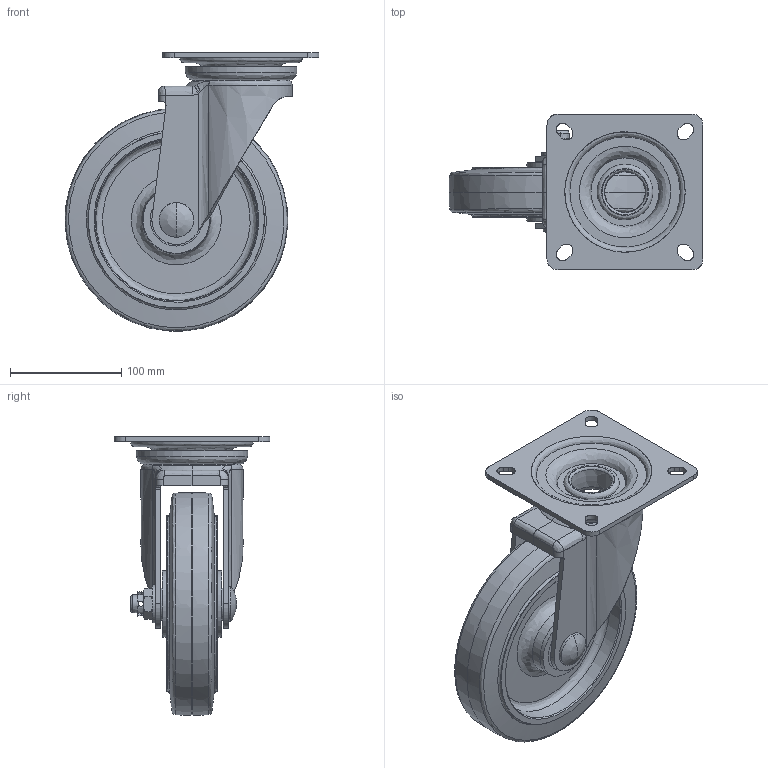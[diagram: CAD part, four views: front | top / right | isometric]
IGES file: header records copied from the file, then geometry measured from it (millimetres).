
Start section: JAMA-IS VERSION  1.0
Global section: file name: E:\tools-models\その他メーカー2\INOAC車輪\6月\TR-200AWJ\TR-200AWJ\TR-200AWJ-ALL.igs; native system: CAM-TOOL; preprocessor: C3out Version 11.1.1.50212 (2015/02/12); author: NONE; organization: NONE; date: 210615.073504; units: millimetre
Bounding box: 227.94 x 140 x 249.94 mm (x, y, z)
Surface area: 314089.4 mm2 (no closed solid volume)
Topology: 0 solids, 0 shells, 305 faces, 3303 edges, 3914 vertices
Faces by surface type: bspline 305
